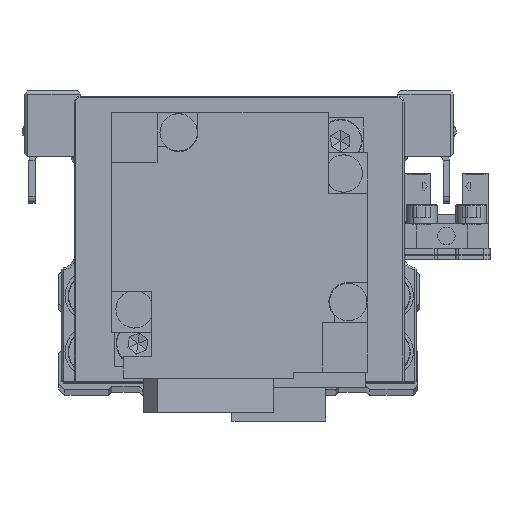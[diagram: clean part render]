
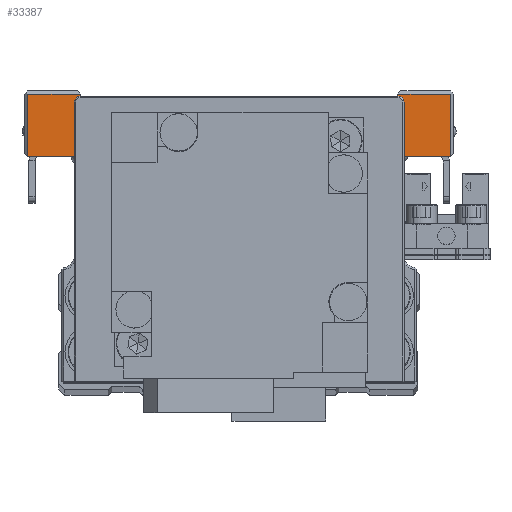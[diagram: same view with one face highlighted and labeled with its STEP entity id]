
A CAD part, top view. The second image highlights one B-rep face of the part: STEP entity #33387.
In plain terms, the highlighted planar face has unit normal (0, 0, 1) as drawn and (1, 0, 0) by its records, which use the part's own axes.
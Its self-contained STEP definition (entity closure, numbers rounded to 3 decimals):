
#70 = EDGE_CURVE ( 'NONE', #26811, #1957, #34908, .T. ) ;
#91 = ORIENTED_EDGE ( 'NONE', *, *, #31900, .T. ) ;
#364 = EDGE_CURVE ( 'NONE', #32793, #7946, #12392, .T. ) ;
#1107 = EDGE_LOOP ( 'NONE', ( #26680, #91, #4727, #29588, #8941, #9347, #29932, #18835, #17975, #12961, #15475, #1493, #7549, #2965 ) ) ;
#1493 = ORIENTED_EDGE ( 'NONE', *, *, #28323, .T. ) ;
#1957 = VERTEX_POINT ( 'NONE', #27252 ) ;
#2069 = LINE ( 'NONE', #12855, #16606 ) ;
#2082 = CARTESIAN_POINT ( 'NONE',  ( 25.5, -6., -16.2 ) ) ;
#2216 = CARTESIAN_POINT ( 'NONE',  ( 25.5, 10.5, 25.5 ) ) ;
#2965 = ORIENTED_EDGE ( 'NONE', *, *, #364, .F. ) ;
#3746 = VERTEX_POINT ( 'NONE', #16615 ) ;
#4073 = DIRECTION ( 'NONE',  ( 0., -1., 0. ) ) ;
#4224 = LINE ( 'NONE', #15019, #26867 ) ;
#4727 = ORIENTED_EDGE ( 'NONE', *, *, #18876, .T. ) ;
#4943 = VERTEX_POINT ( 'NONE', #7635 ) ;
#5123 = CARTESIAN_POINT ( 'NONE',  ( 25.5, 15., 34. ) ) ;
#5275 = EDGE_CURVE ( 'NONE', #27085, #31742, #4224, .T. ) ;
#5433 = CARTESIAN_POINT ( 'NONE',  ( 25.5, 10.5, 25.5 ) ) ;
#5684 = CARTESIAN_POINT ( 'NONE',  ( 25.5, -6., 16.5 ) ) ;
#5857 = CARTESIAN_POINT ( 'NONE',  ( 25.5, 5., -16.5 ) ) ;
#6616 = DIRECTION ( 'NONE',  ( 0., 1., 0. ) ) ;
#6857 = CARTESIAN_POINT ( 'NONE',  ( 25.5, 10.5, -25.5 ) ) ;
#7396 = DIRECTION ( 'NONE',  ( 0., 0., -1. ) ) ;
#7549 = ORIENTED_EDGE ( 'NONE', *, *, #31553, .F. ) ;
#7635 = CARTESIAN_POINT ( 'NONE',  ( 25.5, 15., 25.5 ) ) ;
#7704 = DIRECTION ( 'NONE',  ( 0., 0., 1. ) ) ;
#7887 = DIRECTION ( 'NONE',  ( 0., 1., 0. ) ) ;
#7946 = VERTEX_POINT ( 'NONE', #6857 ) ;
#8717 = CARTESIAN_POINT ( 'NONE',  ( 25.5, 5., 34. ) ) ;
#8941 = ORIENTED_EDGE ( 'NONE', *, *, #23264, .T. ) ;
#8945 = VERTEX_POINT ( 'NONE', #9760 ) ;
#9114 = VECTOR ( 'NONE', #4073, 1000. ) ;
#9158 = VECTOR ( 'NONE', #19499, 1000. ) ;
#9160 = CARTESIAN_POINT ( 'NONE',  ( 25.5, -5.7, -16.5 ) ) ;
#9347 = ORIENTED_EDGE ( 'NONE', *, *, #5275, .T. ) ;
#9760 = CARTESIAN_POINT ( 'NONE',  ( 25.5, 15., -25.5 ) ) ;
#10680 = CARTESIAN_POINT ( 'NONE',  ( 25.5, 5., -34.5 ) ) ;
#12392 = LINE ( 'NONE', #23160, #29824 ) ;
#12855 = CARTESIAN_POINT ( 'NONE',  ( 25.5, 5., 16.5 ) ) ;
#12866 = DIRECTION ( 'NONE',  ( 0., 0.707, -0.707 ) ) ;
#12961 = ORIENTED_EDGE ( 'NONE', *, *, #33576, .T. ) ;
#13146 = CARTESIAN_POINT ( 'NONE',  ( 25.5, -5.7, 16.5 ) ) ;
#14436 = CARTESIAN_POINT ( 'NONE',  ( 25.5, 5., -16.5 ) ) ;
#14717 = EDGE_CURVE ( 'NONE', #29644, #31742, #29915, .T. ) ;
#15019 = CARTESIAN_POINT ( 'NONE',  ( 25.5, -6., 16.2 ) ) ;
#15172 = CARTESIAN_POINT ( 'NONE',  ( 25.5, -6., -16.2 ) ) ;
#15475 = ORIENTED_EDGE ( 'NONE', *, *, #33104, .T. ) ;
#15911 = DIRECTION ( 'NONE',  ( 0., 0., 1. ) ) ;
#16220 = DIRECTION ( 'NONE',  ( 0., 1., 0. ) ) ;
#16463 = DIRECTION ( 'NONE',  ( 0., 0., 1. ) ) ;
#16606 = VECTOR ( 'NONE', #23637, 1000. ) ;
#16615 = CARTESIAN_POINT ( 'NONE',  ( 25.5, 15., -34. ) ) ;
#16649 = DIRECTION ( 'NONE',  ( -1., 0., 0. ) ) ;
#17427 = CARTESIAN_POINT ( 'NONE',  ( 25.5, 5., -34. ) ) ;
#17528 = LINE ( 'NONE', #28300, #9114 ) ;
#17657 = VERTEX_POINT ( 'NONE', #34546 ) ;
#17936 = VECTOR ( 'NONE', #21449, 1000. ) ;
#17967 = AXIS2_PLACEMENT_3D ( 'NONE', #5857, #16649, #27444 ) ;
#17975 = ORIENTED_EDGE ( 'NONE', *, *, #17986, .F. ) ;
#17986 = EDGE_CURVE ( 'NONE', #32601, #29496, #17528, .T. ) ;
#18577 = VECTOR ( 'NONE', #12866, 1000. ) ;
#18835 = ORIENTED_EDGE ( 'NONE', *, *, #31001, .T. ) ;
#18876 = EDGE_CURVE ( 'NONE', #17657, #26811, #32941, .T. ) ;
#19066 = VECTOR ( 'NONE', #7704, 1000. ) ;
#19288 = FACE_OUTER_BOUND ( 'NONE', #1107, .T. ) ;
#19499 = DIRECTION ( 'NONE',  ( 0., -1., 0. ) ) ;
#20037 = LINE ( 'NONE', #30832, #28113 ) ;
#20834 = LINE ( 'NONE', #31623, #26452 ) ;
#21113 = LINE ( 'NONE', #31918, #19066 ) ;
#21311 = LINE ( 'NONE', #32105, #31509 ) ;
#21449 = DIRECTION ( 'NONE',  ( 0., 0., -1. ) ) ;
#22485 = VECTOR ( 'NONE', #15911, 1000. ) ;
#23160 = CARTESIAN_POINT ( 'NONE',  ( 25.5, 10.5, -25.5 ) ) ;
#23264 = EDGE_CURVE ( 'NONE', #1957, #27085, #2069, .T. ) ;
#23637 = DIRECTION ( 'NONE',  ( 0., -1., 0. ) ) ;
#24954 = VERTEX_POINT ( 'NONE', #17427 ) ;
#25633 = CARTESIAN_POINT ( 'NONE',  ( 25.5, -6., 16.2 ) ) ;
#25680 = VECTOR ( 'NONE', #16220, 1000. ) ;
#25795 = DIRECTION ( 'NONE',  ( 0., -0.707, -0.707 ) ) ;
#26082 = EDGE_CURVE ( 'NONE', #32793, #4943, #29653, .T. ) ;
#26139 = VECTOR ( 'NONE', #16463, 1000. ) ;
#26299 = LINE ( 'NONE', #2082, #18577 ) ;
#26452 = VECTOR ( 'NONE', #7396, 1000. ) ;
#26680 = ORIENTED_EDGE ( 'NONE', *, *, #26082, .T. ) ;
#26811 = VERTEX_POINT ( 'NONE', #33175 ) ;
#26867 = VECTOR ( 'NONE', #25795, 1000. ) ;
#27085 = VERTEX_POINT ( 'NONE', #13146 ) ;
#27252 = CARTESIAN_POINT ( 'NONE',  ( 25.5, 5., 16.5 ) ) ;
#27444 = DIRECTION ( 'NONE',  ( 0., 0., 1. ) ) ;
#28113 = VECTOR ( 'NONE', #6616, 1000. ) ;
#28300 = CARTESIAN_POINT ( 'NONE',  ( 25.5, 5., -16.5 ) ) ;
#28323 = EDGE_CURVE ( 'NONE', #3746, #8945, #21113, .T. ) ;
#29356 = LINE ( 'NONE', #5123, #22485 ) ;
#29496 = VERTEX_POINT ( 'NONE', #9160 ) ;
#29588 = ORIENTED_EDGE ( 'NONE', *, *, #70, .T. ) ;
#29644 = VERTEX_POINT ( 'NONE', #15172 ) ;
#29653 = LINE ( 'NONE', #5433, #25680 ) ;
#29824 = VECTOR ( 'NONE', #33961, 1000. ) ;
#29915 = LINE ( 'NONE', #5684, #26139 ) ;
#29932 = ORIENTED_EDGE ( 'NONE', *, *, #14717, .F. ) ;
#30075 = PLANE ( 'NONE',  #17967 ) ;
#30832 = CARTESIAN_POINT ( 'NONE',  ( 25.5, 5., -34. ) ) ;
#31001 = EDGE_CURVE ( 'NONE', #29644, #29496, #26299, .T. ) ;
#31509 = VECTOR ( 'NONE', #7887, 1000. ) ;
#31553 = EDGE_CURVE ( 'NONE', #7946, #8945, #21311, .T. ) ;
#31623 = CARTESIAN_POINT ( 'NONE',  ( 25.5, 5., -34.5 ) ) ;
#31742 = VERTEX_POINT ( 'NONE', #25633 ) ;
#31900 = EDGE_CURVE ( 'NONE', #4943, #17657, #29356, .T. ) ;
#31918 = CARTESIAN_POINT ( 'NONE',  ( 25.5, 15., -25.5 ) ) ;
#32105 = CARTESIAN_POINT ( 'NONE',  ( 25.5, 10.5, -25.5 ) ) ;
#32601 = VERTEX_POINT ( 'NONE', #14436 ) ;
#32793 = VERTEX_POINT ( 'NONE', #2216 ) ;
#32941 = LINE ( 'NONE', #8717, #9158 ) ;
#33104 = EDGE_CURVE ( 'NONE', #24954, #3746, #20037, .T. ) ;
#33175 = CARTESIAN_POINT ( 'NONE',  ( 25.5, 5., 34. ) ) ;
#33387 = ADVANCED_FACE ( 'NONE', ( #19288 ), #30075, .F. ) ;
#33576 = EDGE_CURVE ( 'NONE', #32601, #24954, #20834, .T. ) ;
#33961 = DIRECTION ( 'NONE',  ( 0., 0., -1. ) ) ;
#34546 = CARTESIAN_POINT ( 'NONE',  ( 25.5, 15., 34. ) ) ;
#34908 = LINE ( 'NONE', #10680, #17936 ) ;
